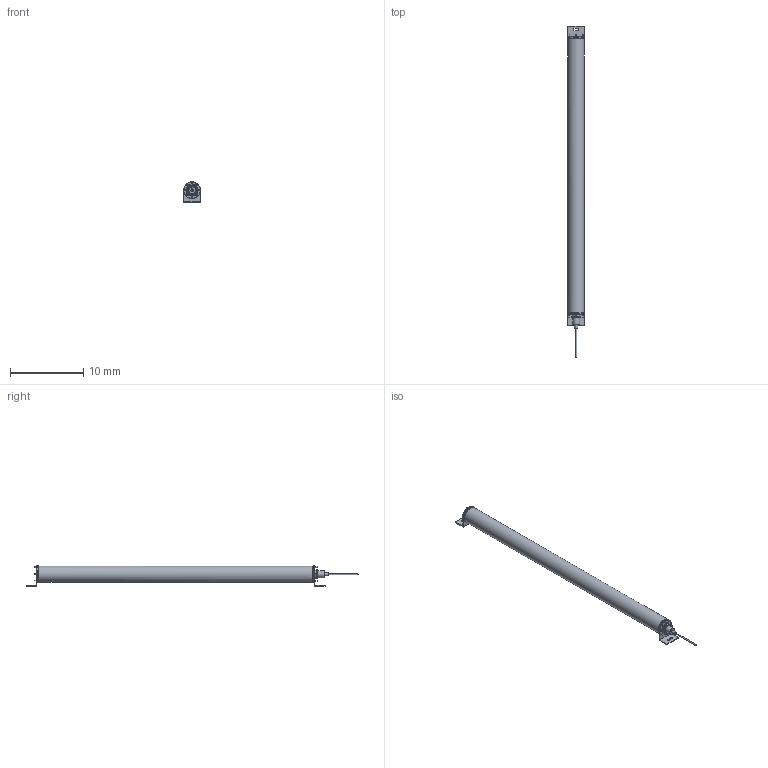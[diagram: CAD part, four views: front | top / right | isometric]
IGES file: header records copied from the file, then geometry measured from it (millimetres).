
Start section:  Autodesk DirectConnect version 7.0.27.0 ---- IGES version 5.3
Global section: file name: C:\ACADFILES\MG_PYLONS\CUSTOMER_FILES\MG-36-PYLON_3D_SMB_PT.iges; native system: Autodesk DirectConnect 7.0.27.0; preprocessor: 7.0.27.0; author: ENGINEERMAIN; organization: Unknown; date: 20150810.142348; units: millimetre
Bounding box: 2.26 x 45.44 x 2.75 mm (x, y, z)
Surface area: 1124.7 mm2 (no closed solid volume)
Topology: 0 solids, 0 shells, 784 faces, 4052 edges, 4055 vertices
Faces by surface type: bspline 784
